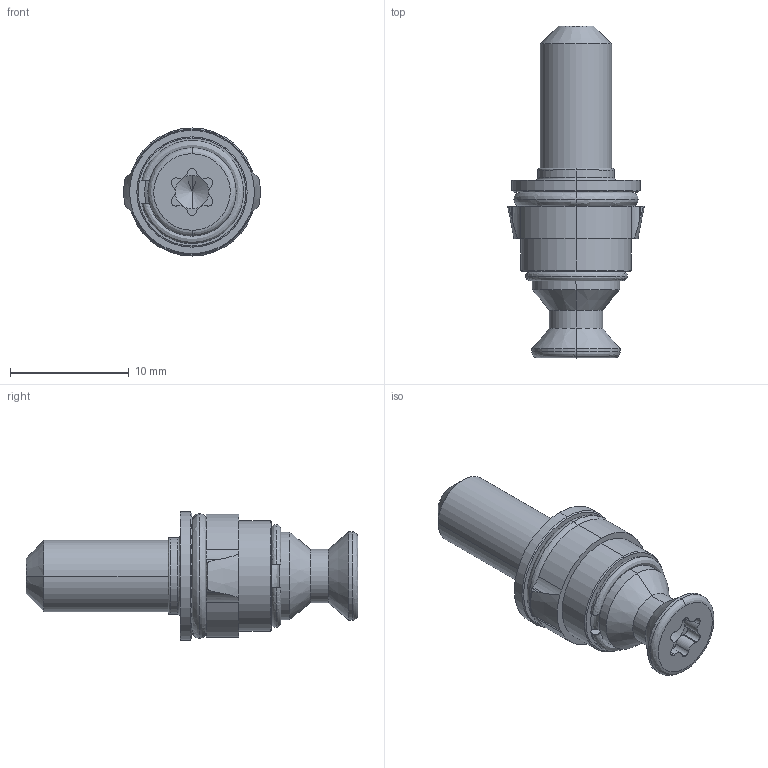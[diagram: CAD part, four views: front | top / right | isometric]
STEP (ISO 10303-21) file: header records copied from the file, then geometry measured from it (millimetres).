
FILE_DESCRIPTION (( 'STEP AP203' ), '1' );
FILE_NAME ('QS022-EAS-M6.STEP', '2017-06-07T09:41:46', ( '' ), ( '' ), 'SwSTEP 2.0', 'SolidWorks 2017', '' );
FILE_SCHEMA (( 'CONFIG_CONTROL_DESIGN' ));
Length unit declared in the file: millimetre
Products named in the file (1): QS022-EAS-M6
Bounding box: 11.51 x 28 x 10.8 mm (x, y, z)
Volume: 1157.1 mm3; surface area: 1758.8 mm2
Topology: 7 solids, 7 shells, 181 faces, 477 edges, 277 vertices
Faces by surface type: cylinder 73, cone 55, plane 27, bspline 26
Entity records: 6055 total; most frequent: CARTESIAN_POINT 1855, ORIENTED_EDGE 876, DIRECTION 866, EDGE_CURVE 438, AXIS2_PLACEMENT_3D 364, VERTEX_POINT 277, CIRCLE 208, EDGE_LOOP 191
